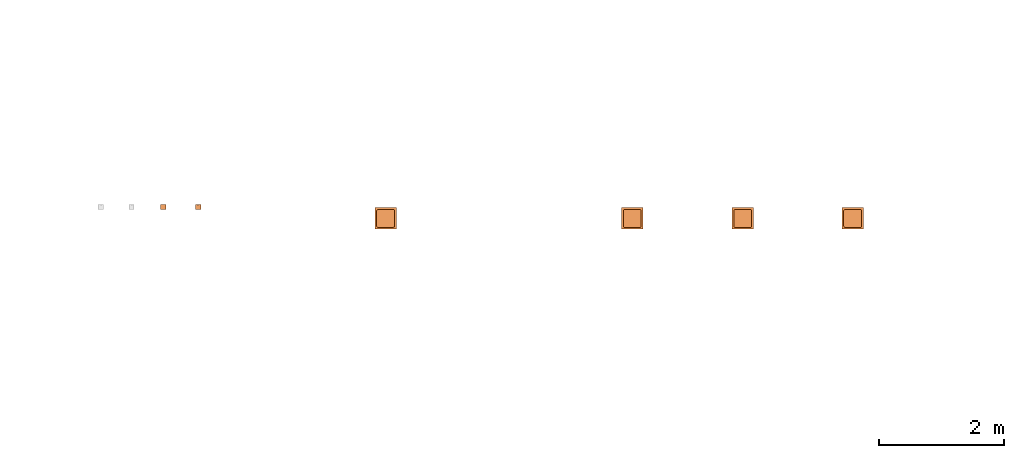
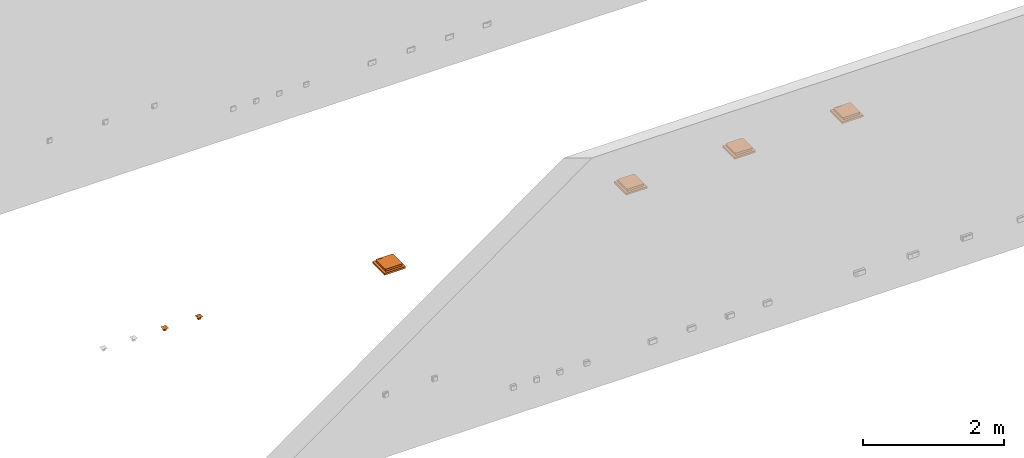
# One storey, part 70 of 197: 6 proxies.
"""IFC2X3 building model written with IfcOpenShell, lengths in metres."""

from ifc_helpers import new_model, entity, si_unit, converted_unit, direction, frame, frame_2d, origin, origin_2d_with_axis, place, context, subcontext, project, spatial, polyline, circle_curve, parameter, trimmed, segment, composite_curve, rectangle, circle, outline, extrude, source, transform, mapped, material, material_list, type_object, type_shapes, element, save


model = new_model("IFC2X3")

# Units and contexts
model_context = context("Model", 3, precision=1e-05, world=origin(), true_north=direction((6.123031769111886e-17, 1.0)))
body_context = subcontext(model_context, "Body", "Model", "MODEL_VIEW")
ifc_project = project(units=[si_unit("LENGTHUNIT", "METRE"), converted_unit("PLANEANGLEUNIT", "DEGREE", entity("IfcPlaneAngleMeasure", 0.017453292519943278), si_unit("PLANEANGLEUNIT", "RADIAN"), dimensions=[0, 0, 0, 0, 0, 0, 0]), si_unit("AREAUNIT", "SQUARE_METRE")], contexts=[model_context])

# Site, building, storey
site_placement = place(None, origin())
site = spatial("IfcSite", under=ifc_project, at=site_placement, Name="Default", CompositionType="ELEMENT")
building_placement = place(site_placement, origin())
building = spatial("IfcBuilding", under=site, at=building_placement, CompositionType="ELEMENT")
storey_placement = place(building_placement, origin())
storey = spatial("IfcBuildingStorey", under=building, at=storey_placement, Name="Niveau 0", CompositionType="ELEMENT", Elevation=0.0)

# Proxies
ifc_material_1 = material(Name="A-ENJOLIVEUR BLANC")
ifc_material_2 = material(Name="<Unnamed>")
ifc_material_list_1 = material_list([ifc_material_1, ifc_material_2])
building_element_proxy_type_1 = type_object("IfcBuildingElementProxyType", Name="Prise simple sol:PCO", PredefinedType="NOTDEFINED", material=ifc_material_list_1)
shared_shape_1 = source(origin(), body_context, "Body", "SweptSolid", [
    extrude(outline(polyline([(-0.043, -0.043000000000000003), (0.043, -0.043000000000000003), (0.043, 0.043000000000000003), (-0.043, 0.043000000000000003), (-0.043, -0.043000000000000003)]), holes=[composite_curve([segment(polyline([(0.0069999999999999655, -0.029499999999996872), (-0.00699999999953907, -0.029499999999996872)]), True, "CONTINUOUS"), segment(polyline([(-0.00699999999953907, -0.029499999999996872), (-0.0069999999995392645, -0.02569999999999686)]), True, "CONTINUOUS"), segment(trimmed(circle_curve(frame_2d((0.0012899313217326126, -0.0025999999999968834), x_axis=(-1.0, 0.0)), 0.024542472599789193), [parameter(289.7416150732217)], [parameter(70.25838492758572)], True, "PARAMETER"), False, "CONTINUOUS"), segment(trimmed(circle_curve(frame_2d((0.0, 0.014821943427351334), x_axis=(-1.0, 0.0)), 0.009013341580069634), [parameter(219.04726896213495)], [parameter(320.95273103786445)], True, "PARAMETER"), False, "CONTINUOUS"), segment(trimmed(circle_curve(frame_2d((-0.0012899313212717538, -0.0025999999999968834), x_axis=(-1.0, 0.0)), 0.024542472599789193), [parameter(109.74161507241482)], [parameter(250.25838492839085)], True, "PARAMETER"), False, "CONTINUOUS"), segment(polyline([(0.006999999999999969, -0.02569999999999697), (0.0069999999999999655, -0.029499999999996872)]), True, "CONTINUOUS")], self_intersect=False)]), frame((0.0, 0.0, 0.0), z_axis=(0.0, 0.0, 1.0), x_axis=(-1.0, 0.0, 0.0)), (0.0, 0.0, 1.0), 0.0006069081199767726),
    extrude(outline(composite_curve([segment(trimmed(circle_curve(frame_2d((0.0, -0.026531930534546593), x_axis=(1.0, 0.0)), 0.008013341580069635), [parameter(219.04726896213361)], [parameter(320.95273104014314)], True, "PARAMETER"), True, "CONTINUOUS"), segment(trimmed(circle_curve(frame_2d((-0.00219188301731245, -0.009080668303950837), x_axis=(1.0, 0.0)), 0.024021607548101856), [parameter(290.506906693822)], [parameter(73.82466715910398)], True, "PARAMETER"), True, "CONTINUOUS"), segment(polyline([(0.004499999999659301, 0.01399001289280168), (0.004499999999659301, 0.01759001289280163)]), True, "CONTINUOUS"), segment(polyline([(0.004499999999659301, 0.01759001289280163), (-0.004499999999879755, 0.01759001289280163)]), True, "CONTINUOUS"), segment(polyline([(-0.004499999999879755, 0.01759001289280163), (-0.0044999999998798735, 0.013990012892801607)]), True, "CONTINUOUS"), segment(trimmed(circle_curve(frame_2d((0.002191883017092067, -0.009080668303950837), x_axis=(1.0, 0.0)), 0.024021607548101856), [parameter(106.17533284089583)], [parameter(249.49309330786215)], True, "PARAMETER"), True, "CONTINUOUS")], self_intersect=False)), frame((0.0, 0.011709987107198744, 0.0)), (0.0, 0.0, 1.0), 0.0006069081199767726),
    extrude(rectangle(XDim=0.041, YDim=0.04100000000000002, at=origin_2d_with_axis()), frame((-0.0005084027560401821, 0.0, -0.0445295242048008), z_axis=(0.0, 0.0, 1.0), x_axis=(-1.0, 0.0, 0.0)), (0.0, 0.0, 1.0), 0.03553643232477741),
    extrude(outline(polyline([(-0.022500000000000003, -0.0225), (0.022500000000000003, -0.0225), (0.022500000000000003, 0.0225), (-0.0225, 0.0225), (-0.022500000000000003, -0.0225)]), holes=[composite_curve([segment(trimmed(circle_curve(origin_2d_with_axis(), 0.019799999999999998), [parameter(179.99999999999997)], [parameter(359.99999999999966)], True, "PARAMETER"), False, "CONTINUOUS"), segment(trimmed(circle_curve(origin_2d_with_axis(), 0.019799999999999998), [parameter(3.5622212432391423e-13)], [parameter(179.99999999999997)], True, "PARAMETER"), False, "CONTINUOUS")], self_intersect=False)]), frame((-0.000508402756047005, 0.0, -0.008993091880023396), z_axis=(0.0, 0.0, 1.0), x_axis=(0.0, 1.0, 0.0)), (0.0, 0.0, 1.0), 0.008993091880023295),
    extrude(outline(composite_curve([segment(trimmed(circle_curve(origin_2d_with_axis(), 0.0195), [parameter(0.0)], [parameter(180.00000000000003)], True, "PARAMETER"), True, "CONTINUOUS"), segment(trimmed(circle_curve(origin_2d_with_axis(), 0.0195), [parameter(180.00000000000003)], [parameter(359.99999999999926)], True, "PARAMETER"), True, "CONTINUOUS")], self_intersect=False), holes=[composite_curve([segment(trimmed(circle_curve(frame_2d((0.011099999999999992, 0.0), x_axis=(1.0, 0.0)), 0.0022), [parameter(179.99999999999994)], [parameter(359.9999999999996)], True, "PARAMETER"), False, "CONTINUOUS"), segment(trimmed(circle_curve(frame_2d((0.011099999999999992, 0.0), x_axis=(1.0, 0.0)), 0.0022), [parameter(3.053332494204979e-13)], [parameter(179.99999999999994)], True, "PARAMETER"), False, "CONTINUOUS")], self_intersect=False), composite_curve([segment(trimmed(circle_curve(frame_2d((0.0, -0.01119999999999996), x_axis=(1.0, 0.0)), 0.0022), [parameter(179.99999999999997)], [parameter(359.9999999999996)], True, "PARAMETER"), False, "CONTINUOUS"), segment(trimmed(circle_curve(frame_2d((0.0, -0.01119999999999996), x_axis=(1.0, 0.0)), 0.0022), [parameter(4.0711099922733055e-13)], [parameter(179.99999999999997)], True, "PARAMETER"), False, "CONTINUOUS")], self_intersect=False), composite_curve([segment(trimmed(circle_curve(frame_2d((0.0, 0.011200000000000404), x_axis=(1.0, 0.0)), 0.0022), [parameter(179.99999999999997)], [parameter(359.99999999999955)], True, "PARAMETER"), False, "CONTINUOUS"), segment(trimmed(circle_curve(frame_2d((0.0, 0.011200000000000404), x_axis=(1.0, 0.0)), 0.0022), [parameter(3.053332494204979e-13)], [parameter(179.99999999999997)], True, "PARAMETER"), False, "CONTINUOUS")], self_intersect=False)]), frame((-0.0005084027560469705, 0.0, -0.008993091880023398), z_axis=(0.0, 0.0, 1.0), x_axis=(0.0, 1.0, 0.0)), (0.0, 0.0, 1.0), 0.008993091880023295),
    extrude(circle(Radius=0.002099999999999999, at=frame_2d((-4.9909850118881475e-45, -9.451293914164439e-18), x_axis=(1.0, 0.0))), frame((-0.000508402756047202, 0.01110000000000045, -0.008993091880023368), z_axis=(0.0, 0.0, 1.0), x_axis=(0.0, 1.0, 0.0)), (0.0, 0.0, 1.0), 0.008993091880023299),
])
type_shapes(building_element_proxy_type_1, [shared_shape_1])
proxy_1_placement = place(storey_placement, frame((-415.81621484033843, 93.73574638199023, 0.0)))
element("IfcBuildingElementProxy", 1, at=proxy_1_placement, inside=storey, type_object=building_element_proxy_type_1, material=ifc_material_list_1, Name="Prise simple sol:PCO", ObjectType="Prise simple sol:PCO", context=body_context, shape_type="MappedRepresentation", body=[
    mapped(shared_shape_1, transform((0.0, 0.0, 0.0), scale=1.0)),
])
building_element_proxy_type_2 = type_object("IfcBuildingElementProxyType", Name="Prise simple sol:PC20A", PredefinedType="NOTDEFINED", material=ifc_material_list_1)
shared_shape_2 = source(origin(), body_context, "Body", "SweptSolid", [
    extrude(outline(polyline([(-0.043, -0.043000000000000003), (0.043, -0.043000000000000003), (0.043, 0.043000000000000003), (-0.043, 0.043000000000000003), (-0.043, -0.043000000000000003)]), holes=[composite_curve([segment(polyline([(0.0069999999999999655, -0.029499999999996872), (-0.00699999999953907, -0.029499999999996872)]), True, "CONTINUOUS"), segment(polyline([(-0.00699999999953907, -0.029499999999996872), (-0.0069999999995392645, -0.02569999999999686)]), True, "CONTINUOUS"), segment(trimmed(circle_curve(frame_2d((0.0012899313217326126, -0.0025999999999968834), x_axis=(-1.0, 0.0)), 0.024542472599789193), [parameter(289.7416150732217)], [parameter(70.25838492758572)], True, "PARAMETER"), False, "CONTINUOUS"), segment(trimmed(circle_curve(frame_2d((0.0, 0.014821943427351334), x_axis=(-1.0, 0.0)), 0.009013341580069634), [parameter(219.04726896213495)], [parameter(320.95273103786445)], True, "PARAMETER"), False, "CONTINUOUS"), segment(trimmed(circle_curve(frame_2d((-0.0012899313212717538, -0.0025999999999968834), x_axis=(-1.0, 0.0)), 0.024542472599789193), [parameter(109.74161507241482)], [parameter(250.25838492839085)], True, "PARAMETER"), False, "CONTINUOUS"), segment(polyline([(0.006999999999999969, -0.02569999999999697), (0.0069999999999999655, -0.029499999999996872)]), True, "CONTINUOUS")], self_intersect=False)]), frame((0.0, 0.0, 0.0), z_axis=(0.0, 0.0, 1.0), x_axis=(-1.0, 0.0, 0.0)), (0.0, 0.0, 1.0), 0.0006069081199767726),
    extrude(outline(composite_curve([segment(trimmed(circle_curve(frame_2d((0.0, -0.026531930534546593), x_axis=(1.0, 0.0)), 0.008013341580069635), [parameter(219.04726896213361)], [parameter(320.95273104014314)], True, "PARAMETER"), True, "CONTINUOUS"), segment(trimmed(circle_curve(frame_2d((-0.00219188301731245, -0.009080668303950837), x_axis=(1.0, 0.0)), 0.024021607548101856), [parameter(290.506906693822)], [parameter(73.82466715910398)], True, "PARAMETER"), True, "CONTINUOUS"), segment(polyline([(0.004499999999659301, 0.01399001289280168), (0.004499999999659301, 0.01759001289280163)]), True, "CONTINUOUS"), segment(polyline([(0.004499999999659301, 0.01759001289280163), (-0.004499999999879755, 0.01759001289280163)]), True, "CONTINUOUS"), segment(polyline([(-0.004499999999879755, 0.01759001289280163), (-0.0044999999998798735, 0.013990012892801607)]), True, "CONTINUOUS"), segment(trimmed(circle_curve(frame_2d((0.002191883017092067, -0.009080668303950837), x_axis=(1.0, 0.0)), 0.024021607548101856), [parameter(106.17533284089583)], [parameter(249.49309330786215)], True, "PARAMETER"), True, "CONTINUOUS")], self_intersect=False)), frame((0.0, 0.011709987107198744, 0.0)), (0.0, 0.0, 1.0), 0.0006069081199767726),
    extrude(rectangle(XDim=0.041, YDim=0.04100000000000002, at=origin_2d_with_axis()), frame((-0.0005084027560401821, 0.0, -0.0445295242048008), z_axis=(0.0, 0.0, 1.0), x_axis=(-1.0, 0.0, 0.0)), (0.0, 0.0, 1.0), 0.03553643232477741),
    extrude(outline(polyline([(-0.022500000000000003, -0.0225), (0.022500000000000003, -0.0225), (0.022500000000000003, 0.0225), (-0.0225, 0.0225), (-0.022500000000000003, -0.0225)]), holes=[composite_curve([segment(trimmed(circle_curve(origin_2d_with_axis(), 0.019799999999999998), [parameter(179.99999999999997)], [parameter(359.99999999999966)], True, "PARAMETER"), False, "CONTINUOUS"), segment(trimmed(circle_curve(origin_2d_with_axis(), 0.019799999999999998), [parameter(3.5622212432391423e-13)], [parameter(179.99999999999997)], True, "PARAMETER"), False, "CONTINUOUS")], self_intersect=False)]), frame((-0.000508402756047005, 0.0, -0.008993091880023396), z_axis=(0.0, 0.0, 1.0), x_axis=(0.0, 1.0, 0.0)), (0.0, 0.0, 1.0), 0.008993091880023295),
    extrude(outline(composite_curve([segment(trimmed(circle_curve(origin_2d_with_axis(), 0.0195), [parameter(0.0)], [parameter(180.00000000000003)], True, "PARAMETER"), True, "CONTINUOUS"), segment(trimmed(circle_curve(origin_2d_with_axis(), 0.0195), [parameter(180.00000000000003)], [parameter(359.99999999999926)], True, "PARAMETER"), True, "CONTINUOUS")], self_intersect=False), holes=[composite_curve([segment(trimmed(circle_curve(frame_2d((0.011099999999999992, 0.0), x_axis=(1.0, 0.0)), 0.0022), [parameter(179.99999999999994)], [parameter(359.9999999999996)], True, "PARAMETER"), False, "CONTINUOUS"), segment(trimmed(circle_curve(frame_2d((0.011099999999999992, 0.0), x_axis=(1.0, 0.0)), 0.0022), [parameter(3.053332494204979e-13)], [parameter(179.99999999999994)], True, "PARAMETER"), False, "CONTINUOUS")], self_intersect=False), composite_curve([segment(trimmed(circle_curve(frame_2d((0.0, -0.01119999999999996), x_axis=(1.0, 0.0)), 0.0022), [parameter(179.99999999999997)], [parameter(359.9999999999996)], True, "PARAMETER"), False, "CONTINUOUS"), segment(trimmed(circle_curve(frame_2d((0.0, -0.01119999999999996), x_axis=(1.0, 0.0)), 0.0022), [parameter(4.0711099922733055e-13)], [parameter(179.99999999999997)], True, "PARAMETER"), False, "CONTINUOUS")], self_intersect=False), composite_curve([segment(trimmed(circle_curve(frame_2d((0.0, 0.011200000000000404), x_axis=(1.0, 0.0)), 0.0022), [parameter(179.99999999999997)], [parameter(359.99999999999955)], True, "PARAMETER"), False, "CONTINUOUS"), segment(trimmed(circle_curve(frame_2d((0.0, 0.011200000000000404), x_axis=(1.0, 0.0)), 0.0022), [parameter(3.053332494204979e-13)], [parameter(179.99999999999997)], True, "PARAMETER"), False, "CONTINUOUS")], self_intersect=False)]), frame((-0.0005084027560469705, 0.0, -0.008993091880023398), z_axis=(0.0, 0.0, 1.0), x_axis=(0.0, 1.0, 0.0)), (0.0, 0.0, 1.0), 0.008993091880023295),
    extrude(circle(Radius=0.002099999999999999, at=frame_2d((-4.9909850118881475e-45, -9.451293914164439e-18), x_axis=(1.0, 0.0))), frame((-0.000508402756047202, 0.01110000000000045, -0.008993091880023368), z_axis=(0.0, 0.0, 1.0), x_axis=(0.0, 1.0, 0.0)), (0.0, 0.0, 1.0), 0.008993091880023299),
])
type_shapes(building_element_proxy_type_2, [shared_shape_2])
proxy_2_placement = place(storey_placement, frame((-415.25721484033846, 93.73574638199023, 0.0)))
element("IfcBuildingElementProxy", 2, at=proxy_2_placement, inside=storey, type_object=building_element_proxy_type_2, material=ifc_material_list_1, Name="Prise simple sol:PC20A", ObjectType="Prise simple sol:PC20A", context=body_context, shape_type="MappedRepresentation", body=[
    mapped(shared_shape_2, transform((0.0, 0.0, 0.0), scale=1.0)),
])
ifc_material_3 = material(Name="Legrand - Inox")
ifc_material_list_2 = material_list([ifc_material_2, ifc_material_3])
building_element_proxy_type_3 = type_object("IfcBuildingElementProxyType", Name="Boitier sol 2x3 modules:2PCN+2RJ+1HDMI+1USB", PredefinedType="NOTDEFINED", material=ifc_material_list_2)
shared_shape_3 = source(origin(), body_context, "Body", "SweptSolid", [
    extrude(rectangle(XDim=0.34600000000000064, YDim=0.3460000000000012, at=frame_2d((0.0, 1.3877787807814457e-17), x_axis=(1.0, 0.0))), frame((0.0, 0.0, -0.07030000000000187), z_axis=(0.0, 0.0, 1.0), x_axis=(-1.0, 0.0, 0.0)), (0.0, 0.0, 1.0), 0.03150000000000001),
    extrude(rectangle(XDim=0.266000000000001, YDim=0.26600000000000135, at=frame_2d((1.3877787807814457e-17, 0.0), x_axis=(1.0, 0.0))), frame((0.0, 0.0, -0.03880000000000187), z_axis=(0.0, 0.0, 1.0), x_axis=(-1.0, 0.0, 0.0)), (0.0, 0.0, 1.0), 0.03880000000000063),
    extrude(outline(composite_curve([segment(polyline([(-0.12219999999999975, -0.143), (0.12220000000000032, -0.143)]), True, "CONTINUOUS"), segment(trimmed(circle_curve(frame_2d((0.12220000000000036, -0.12219999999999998), x_axis=(-1.0, 0.0)), 0.0208), [parameter(89.99999999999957)], [parameter(179.99999999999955)], True, "PARAMETER"), True, "CONTINUOUS"), segment(polyline([(0.14300000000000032, -0.1221999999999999), (0.14299999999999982, 0.12219999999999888)]), True, "CONTINUOUS"), segment(trimmed(circle_curve(frame_2d((0.12219999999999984, 0.12219999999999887), x_axis=(-1.0, 0.0)), 0.0208), [parameter(179.99999999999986)], [parameter(269.99999999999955)], True, "PARAMETER"), True, "CONTINUOUS"), segment(polyline([(0.12219999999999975, 0.14299999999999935), (-0.12220000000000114, 0.14300000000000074)]), True, "CONTINUOUS"), segment(trimmed(circle_curve(frame_2d((-0.12220000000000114, 0.12220000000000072), x_axis=(-1.0, 0.0)), 0.0208), [parameter(269.99999999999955)], [parameter(359.99999999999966)], True, "PARAMETER"), True, "CONTINUOUS"), segment(polyline([(-0.1429999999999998, 0.12220000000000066), (-0.14299999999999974, -0.12219999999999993)]), True, "CONTINUOUS"), segment(trimmed(circle_curve(frame_2d((-0.12219999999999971, -0.12219999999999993), x_axis=(-1.0, 0.0)), 0.0208), [parameter(359.99999999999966)], [parameter(89.99999999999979)], True, "PARAMETER"), True, "CONTINUOUS")], self_intersect=False), holes=[polyline([(-0.12199999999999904, -0.12200000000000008), (-0.12199999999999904, 0.08100000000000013), (0.12200000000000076, 0.08100000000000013), (0.12200000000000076, -0.12200000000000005), (-0.12199999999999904, -0.12200000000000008)])]), frame((0.0, 0.0, 0.0), z_axis=(0.0, 0.0, 1.0), x_axis=(-1.0, 0.0, 0.0)), (0.0, 0.0, 1.0), 0.004499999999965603),
    extrude(rectangle(XDim=0.24399999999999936, YDim=0.20300000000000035, at=frame_2d((-6.938893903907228e-18, 0.0), x_axis=(1.0, 0.0))), frame((0.0, 0.020499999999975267, 0.0), z_axis=(0.0, 0.0, 1.0), x_axis=(-1.0, 0.0, 0.0)), (0.0, 0.0, 1.0), 0.0040000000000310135),
])
type_shapes(building_element_proxy_type_3, [shared_shape_3])
proxy_3_placement = place(storey_placement, frame((-412.2494485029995, 93.55254659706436, 0.0)))
element("IfcBuildingElementProxy", 3, at=proxy_3_placement, inside=storey, type_object=building_element_proxy_type_3, material=ifc_material_list_2, Name="Boitier sol 2x3 modules:2PCN+2RJ+1HDMI+1USB", ObjectType="Boitier sol 2x3 modules:2PCN+2RJ+1HDMI+1USB", context=body_context, shape_type="MappedRepresentation", body=[
    mapped(shared_shape_3, transform((0.0, 0.0, 0.0), scale=1.0)),
])
building_element_proxy_type_4 = type_object("IfcBuildingElementProxyType", Name="Boitier sol 3x3 modules:2PCN+2PCO+2RJ+1HDMI+1USB", PredefinedType="NOTDEFINED", material=ifc_material_list_2)
shared_shape_4 = source(origin(), body_context, "Body", "SweptSolid", [
    extrude(rectangle(XDim=0.34600000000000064, YDim=0.3460000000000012, at=frame_2d((0.0, 1.3877787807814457e-17), x_axis=(1.0, 0.0))), frame((0.0, 0.0, -0.07030000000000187), z_axis=(0.0, 0.0, 1.0), x_axis=(-1.0, 0.0, 0.0)), (0.0, 0.0, 1.0), 0.03150000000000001),
    extrude(rectangle(XDim=0.266000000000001, YDim=0.26600000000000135, at=frame_2d((1.3877787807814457e-17, 0.0), x_axis=(1.0, 0.0))), frame((0.0, 0.0, -0.03880000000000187), z_axis=(0.0, 0.0, 1.0), x_axis=(-1.0, 0.0, 0.0)), (0.0, 0.0, 1.0), 0.03880000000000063),
    extrude(outline(composite_curve([segment(polyline([(-0.12219999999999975, -0.143), (0.12220000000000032, -0.143)]), True, "CONTINUOUS"), segment(trimmed(circle_curve(frame_2d((0.12220000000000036, -0.12219999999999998), x_axis=(-1.0, 0.0)), 0.0208), [parameter(89.99999999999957)], [parameter(179.99999999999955)], True, "PARAMETER"), True, "CONTINUOUS"), segment(polyline([(0.14300000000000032, -0.1221999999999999), (0.14299999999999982, 0.12219999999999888)]), True, "CONTINUOUS"), segment(trimmed(circle_curve(frame_2d((0.12219999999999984, 0.12219999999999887), x_axis=(-1.0, 0.0)), 0.0208), [parameter(179.99999999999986)], [parameter(269.99999999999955)], True, "PARAMETER"), True, "CONTINUOUS"), segment(polyline([(0.12219999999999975, 0.14299999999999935), (-0.12220000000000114, 0.14300000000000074)]), True, "CONTINUOUS"), segment(trimmed(circle_curve(frame_2d((-0.12220000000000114, 0.12220000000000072), x_axis=(-1.0, 0.0)), 0.0208), [parameter(269.99999999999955)], [parameter(359.99999999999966)], True, "PARAMETER"), True, "CONTINUOUS"), segment(polyline([(-0.1429999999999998, 0.12220000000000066), (-0.14299999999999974, -0.12219999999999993)]), True, "CONTINUOUS"), segment(trimmed(circle_curve(frame_2d((-0.12219999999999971, -0.12219999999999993), x_axis=(-1.0, 0.0)), 0.0208), [parameter(359.99999999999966)], [parameter(89.99999999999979)], True, "PARAMETER"), True, "CONTINUOUS")], self_intersect=False), holes=[polyline([(-0.12199999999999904, -0.12200000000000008), (-0.12199999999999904, 0.08100000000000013), (0.12200000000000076, 0.08100000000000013), (0.12200000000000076, -0.12200000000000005), (-0.12199999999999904, -0.12200000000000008)])]), frame((0.0, 0.0, 0.0), z_axis=(0.0, 0.0, 1.0), x_axis=(-1.0, 0.0, 0.0)), (0.0, 0.0, 1.0), 0.004499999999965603),
    extrude(rectangle(XDim=0.24399999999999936, YDim=0.20300000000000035, at=frame_2d((-6.938893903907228e-18, 0.0), x_axis=(1.0, 0.0))), frame((0.0, 0.020499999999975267, 0.0), z_axis=(0.0, 0.0, 1.0), x_axis=(-1.0, 0.0, 0.0)), (0.0, 0.0, 1.0), 0.0040000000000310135),
])
type_shapes(building_element_proxy_type_4, [shared_shape_4])
proxy_4_placement = place(storey_placement, frame((-408.2934485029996, 93.55254659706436, 0.0)))
element("IfcBuildingElementProxy", 4, at=proxy_4_placement, inside=storey, type_object=building_element_proxy_type_4, material=ifc_material_list_2, Name="Boitier sol 3x3 modules:2PCN+2PCO+2RJ+1HDMI+1USB", ObjectType="Boitier sol 3x3 modules:2PCN+2PCO+2RJ+1HDMI+1USB", context=body_context, shape_type="MappedRepresentation", body=[
    mapped(shared_shape_4, transform((0.0, 0.0, 0.0), scale=1.0)),
])
building_element_proxy_type_5 = type_object("IfcBuildingElementProxyType", Name="Boitier sol 3x3 modules:2PCN+2PCO+2RJ+2HDMI", PredefinedType="NOTDEFINED", material=ifc_material_list_2)
shared_shape_5 = source(origin(), body_context, "Body", "SweptSolid", [
    extrude(rectangle(XDim=0.34600000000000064, YDim=0.3460000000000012, at=frame_2d((0.0, 1.3877787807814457e-17), x_axis=(1.0, 0.0))), frame((0.0, 0.0, -0.07030000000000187), z_axis=(0.0, 0.0, 1.0), x_axis=(-1.0, 0.0, 0.0)), (0.0, 0.0, 1.0), 0.03150000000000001),
    extrude(rectangle(XDim=0.266000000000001, YDim=0.26600000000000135, at=frame_2d((1.3877787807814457e-17, 0.0), x_axis=(1.0, 0.0))), frame((0.0, 0.0, -0.03880000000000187), z_axis=(0.0, 0.0, 1.0), x_axis=(-1.0, 0.0, 0.0)), (0.0, 0.0, 1.0), 0.03880000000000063),
    extrude(outline(composite_curve([segment(polyline([(-0.12219999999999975, -0.143), (0.12220000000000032, -0.143)]), True, "CONTINUOUS"), segment(trimmed(circle_curve(frame_2d((0.12220000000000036, -0.12219999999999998), x_axis=(-1.0, 0.0)), 0.0208), [parameter(89.99999999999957)], [parameter(179.99999999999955)], True, "PARAMETER"), True, "CONTINUOUS"), segment(polyline([(0.14300000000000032, -0.1221999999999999), (0.14299999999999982, 0.12219999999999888)]), True, "CONTINUOUS"), segment(trimmed(circle_curve(frame_2d((0.12219999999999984, 0.12219999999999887), x_axis=(-1.0, 0.0)), 0.0208), [parameter(179.99999999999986)], [parameter(269.99999999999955)], True, "PARAMETER"), True, "CONTINUOUS"), segment(polyline([(0.12219999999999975, 0.14299999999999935), (-0.12220000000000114, 0.14300000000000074)]), True, "CONTINUOUS"), segment(trimmed(circle_curve(frame_2d((-0.12220000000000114, 0.12220000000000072), x_axis=(-1.0, 0.0)), 0.0208), [parameter(269.99999999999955)], [parameter(359.99999999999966)], True, "PARAMETER"), True, "CONTINUOUS"), segment(polyline([(-0.1429999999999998, 0.12220000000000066), (-0.14299999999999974, -0.12219999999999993)]), True, "CONTINUOUS"), segment(trimmed(circle_curve(frame_2d((-0.12219999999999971, -0.12219999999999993), x_axis=(-1.0, 0.0)), 0.0208), [parameter(359.99999999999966)], [parameter(89.99999999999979)], True, "PARAMETER"), True, "CONTINUOUS")], self_intersect=False), holes=[polyline([(-0.12199999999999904, -0.12200000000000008), (-0.12199999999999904, 0.08100000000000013), (0.12200000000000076, 0.08100000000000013), (0.12200000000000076, -0.12200000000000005), (-0.12199999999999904, -0.12200000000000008)])]), frame((0.0, 0.0, 0.0), z_axis=(0.0, 0.0, 1.0), x_axis=(-1.0, 0.0, 0.0)), (0.0, 0.0, 1.0), 0.004499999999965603),
    extrude(rectangle(XDim=0.24399999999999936, YDim=0.20300000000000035, at=frame_2d((-6.938893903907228e-18, 0.0), x_axis=(1.0, 0.0))), frame((0.0, 0.020499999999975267, 0.0), z_axis=(0.0, 0.0, 1.0), x_axis=(-1.0, 0.0, 0.0)), (0.0, 0.0, 1.0), 0.0040000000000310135),
])
type_shapes(building_element_proxy_type_5, [shared_shape_5])
proxy_5_placement = place(storey_placement, frame((-406.51944850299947, 93.55254659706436, 0.0)))
element("IfcBuildingElementProxy", 5, at=proxy_5_placement, inside=storey, type_object=building_element_proxy_type_5, material=ifc_material_list_2, Name="Boitier sol 3x3 modules:2PCN+2PCO+2RJ+2HDMI", ObjectType="Boitier sol 3x3 modules:2PCN+2PCO+2RJ+2HDMI", context=body_context, shape_type="MappedRepresentation", body=[
    mapped(shared_shape_5, transform((0.0, 0.0, 0.0), scale=1.0)),
])
building_element_proxy_type_6 = type_object("IfcBuildingElementProxyType", Name="Boitier sol 3x3 modules:2PCN+2PCO+2RJ+2USB", PredefinedType="NOTDEFINED", material=ifc_material_list_2)
shared_shape_6 = source(origin(), body_context, "Body", "SweptSolid", [
    extrude(rectangle(XDim=0.34600000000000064, YDim=0.3460000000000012, at=frame_2d((0.0, 1.3877787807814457e-17), x_axis=(1.0, 0.0))), frame((0.0, 0.0, -0.07030000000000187), z_axis=(0.0, 0.0, 1.0), x_axis=(-1.0, 0.0, 0.0)), (0.0, 0.0, 1.0), 0.03150000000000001),
    extrude(rectangle(XDim=0.266000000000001, YDim=0.26600000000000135, at=frame_2d((1.3877787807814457e-17, 0.0), x_axis=(1.0, 0.0))), frame((0.0, 0.0, -0.03880000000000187), z_axis=(0.0, 0.0, 1.0), x_axis=(-1.0, 0.0, 0.0)), (0.0, 0.0, 1.0), 0.03880000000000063),
    extrude(outline(composite_curve([segment(polyline([(-0.12219999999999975, -0.143), (0.12220000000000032, -0.143)]), True, "CONTINUOUS"), segment(trimmed(circle_curve(frame_2d((0.12220000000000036, -0.12219999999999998), x_axis=(-1.0, 0.0)), 0.0208), [parameter(89.99999999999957)], [parameter(179.99999999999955)], True, "PARAMETER"), True, "CONTINUOUS"), segment(polyline([(0.14300000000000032, -0.1221999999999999), (0.14299999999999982, 0.12219999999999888)]), True, "CONTINUOUS"), segment(trimmed(circle_curve(frame_2d((0.12219999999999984, 0.12219999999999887), x_axis=(-1.0, 0.0)), 0.0208), [parameter(179.99999999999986)], [parameter(269.99999999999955)], True, "PARAMETER"), True, "CONTINUOUS"), segment(polyline([(0.12219999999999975, 0.14299999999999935), (-0.12220000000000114, 0.14300000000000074)]), True, "CONTINUOUS"), segment(trimmed(circle_curve(frame_2d((-0.12220000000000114, 0.12220000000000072), x_axis=(-1.0, 0.0)), 0.0208), [parameter(269.99999999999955)], [parameter(359.99999999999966)], True, "PARAMETER"), True, "CONTINUOUS"), segment(polyline([(-0.1429999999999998, 0.12220000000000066), (-0.14299999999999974, -0.12219999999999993)]), True, "CONTINUOUS"), segment(trimmed(circle_curve(frame_2d((-0.12219999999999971, -0.12219999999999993), x_axis=(-1.0, 0.0)), 0.0208), [parameter(359.99999999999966)], [parameter(89.99999999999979)], True, "PARAMETER"), True, "CONTINUOUS")], self_intersect=False), holes=[polyline([(-0.12199999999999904, -0.12200000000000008), (-0.12199999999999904, 0.08100000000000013), (0.12200000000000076, 0.08100000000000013), (0.12200000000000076, -0.12200000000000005), (-0.12199999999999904, -0.12200000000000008)])]), frame((0.0, 0.0, 0.0), z_axis=(0.0, 0.0, 1.0), x_axis=(-1.0, 0.0, 0.0)), (0.0, 0.0, 1.0), 0.004499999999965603),
    extrude(rectangle(XDim=0.24399999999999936, YDim=0.20300000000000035, at=frame_2d((-6.938893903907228e-18, 0.0), x_axis=(1.0, 0.0))), frame((0.0, 0.020499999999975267, 0.0), z_axis=(0.0, 0.0, 1.0), x_axis=(-1.0, 0.0, 0.0)), (0.0, 0.0, 1.0), 0.0040000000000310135),
])
type_shapes(building_element_proxy_type_6, [shared_shape_6])
proxy_6_placement = place(storey_placement, frame((-404.7564485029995, 93.55254659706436, 0.0)))
element("IfcBuildingElementProxy", 6, at=proxy_6_placement, inside=storey, type_object=building_element_proxy_type_6, material=ifc_material_list_2, Name="Boitier sol 3x3 modules:2PCN+2PCO+2RJ+2USB", ObjectType="Boitier sol 3x3 modules:2PCN+2PCO+2RJ+2USB", context=body_context, shape_type="MappedRepresentation", body=[
    mapped(shared_shape_6, transform((0.0, 0.0, 0.0), scale=1.0)),
])

save(model, "model.ifc")
